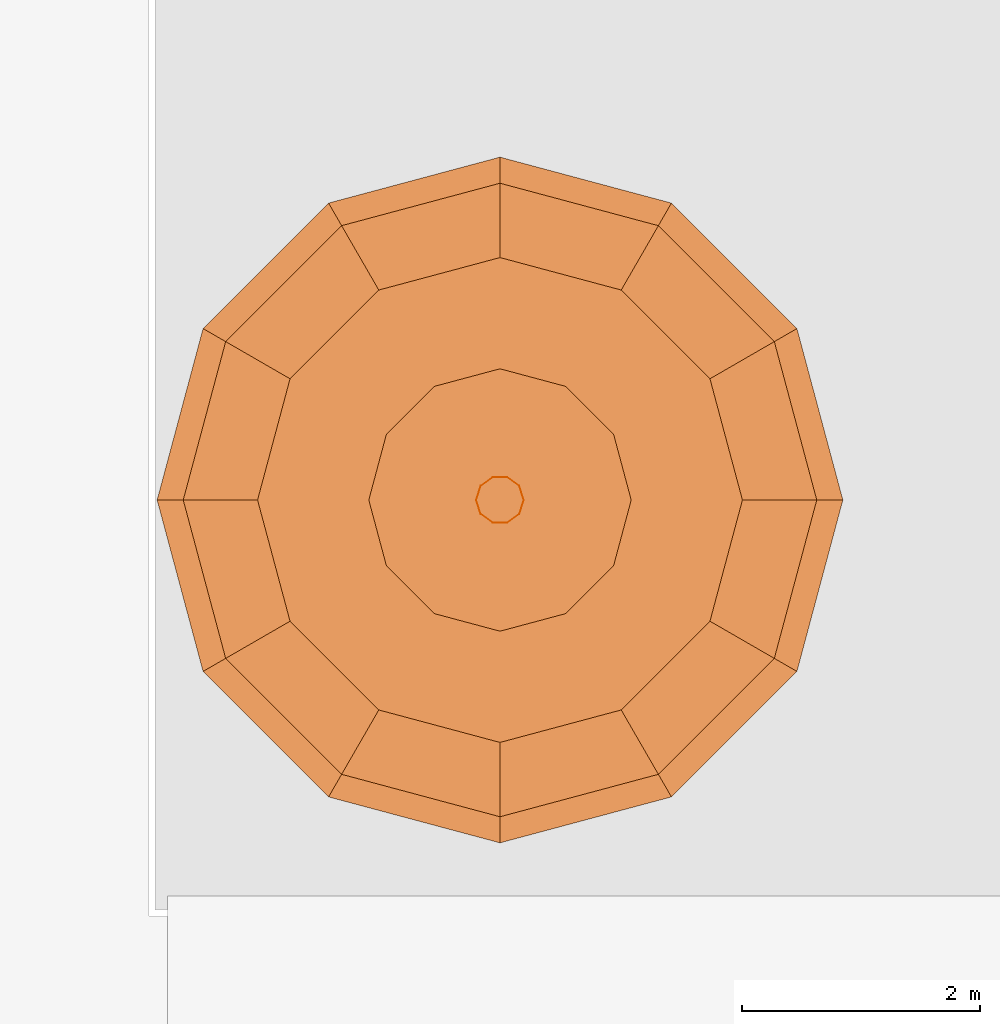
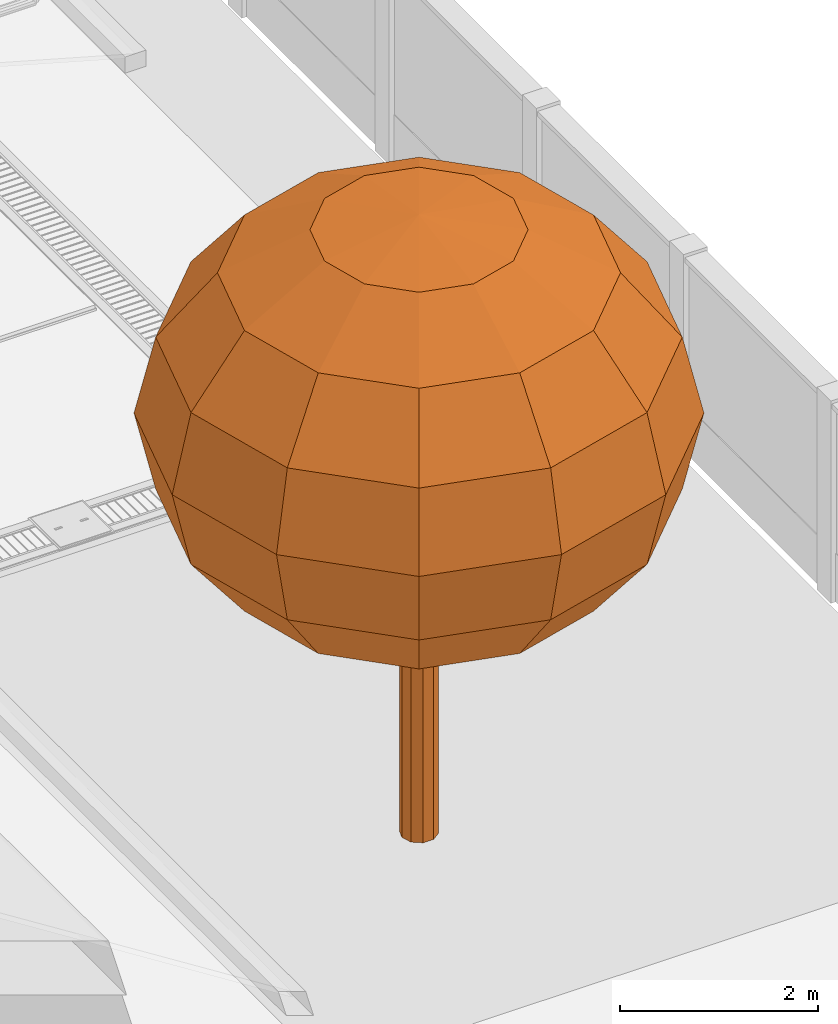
# One storey, part 163 of 166: 2 proxies.
"""IFC2X3 building model written with IfcOpenShell, lengths in metres."""

from ifc_helpers import new_model, si_unit, origin, origin_with_axes, place, context, subcontext, project, spatial, faceted_brep, element, save


model = new_model("IFC2X3")

# Units and contexts
model_context = context("Model", 3, precision=1e-05, world=origin_with_axes())
body_context = subcontext(model_context, "Body", "Model", "MODEL_VIEW")
ifc_project = project(units=[si_unit("LENGTHUNIT", "METRE"), si_unit("AREAUNIT", "SQUARE_METRE"), si_unit("VOLUMEUNIT", "CUBIC_METRE"), si_unit("PLANEANGLEUNIT", "RADIAN")], contexts=[model_context])

# Site, building, storey
site_placement = place(None, origin_with_axes())
site = spatial("IfcSite", under=ifc_project, at=site_placement, Name="Predio Los Mangos - Morales, San Martín", CompositionType="ELEMENT")
building_placement = place(site_placement, origin())
building = spatial("IfcBuilding", under=site, at=building_placement, Name="Hogar de Refugio Temporal", CompositionType="ELEMENT")
storey_placement = place(building_placement, origin())
storey = spatial("IfcBuildingStorey", under=building, at=storey_placement, Name="NIVEL 1 (NPT +0.00)", CompositionType="ELEMENT", Elevation=0.0)

# Proxies
proxy_1_placement = place(storey_placement, origin())
element("IfcBuildingElementProxy", 1, at=proxy_1_placement, inside=storey, Name="arbol_tronco", ObjectType="Árbol", context=body_context, shape_type="Brep", body=[
    faceted_brep([(66.2006, 82.0, 0.0), (66.1622, 82.1179, 0.0), (66.1622, 82.1179, 3.0083), (66.062, 82.1907, 0.0), (66.062, 82.1907, 3.0083), (65.938, 82.1907, 0.0), (65.938, 82.1907, 3.0083), (65.8378, 82.1179, 0.0), (65.8378, 82.1179, 3.0083), (65.7994, 82.0, 0.0), (65.7994, 82.0, 3.0083), (65.8378, 81.8821, 0.0), (65.8378, 81.8821, 3.0083), (65.938, 81.8093, 0.0), (65.938, 81.8093, 3.0083), (66.062, 81.8093, 0.0), (66.062, 81.8093, 3.0083), (66.1622, 81.8821, 0.0), (66.1622, 81.8821, 3.0083), (66.2006, 82.0, 3.0083)], [[[0, 1, 2]], [[1, 3, 4]], [[3, 5, 6]], [[5, 7, 8]], [[7, 9, 10]], [[9, 11, 12]], [[11, 13, 14]], [[13, 15, 16]], [[15, 17, 18]], [[17, 0, 19]], [[0, 2, 19]], [[1, 4, 2]], [[3, 6, 4]], [[5, 8, 6]], [[7, 10, 8]], [[9, 12, 10]], [[11, 14, 12]], [[13, 16, 14]], [[15, 18, 16]], [[17, 19, 18]]]),
])
proxy_2_placement = place(storey_placement, origin())
element("IfcBuildingElementProxy", 2, at=proxy_2_placement, inside=storey, Name="arbol_copa", ObjectType="Árbol", context=body_context, shape_type="Brep", body=[
    faceted_brep([(66.0, 82.0, 7.621), (66.0, 82.0, 7.621), (66.9554, 82.5516, 7.4344), (67.1033, 82.0, 7.4344), (66.0, 82.0, 7.621), (66.5516, 82.9554, 7.4344), (66.0, 82.0, 7.621), (66.0, 83.1033, 7.4344), (66.0, 82.0, 7.621), (65.4484, 82.9554, 7.4344), (66.0, 82.0, 7.621), (65.0446, 82.5516, 7.4344), (66.0, 82.0, 7.621), (64.8967, 82.0, 7.4344), (66.0, 82.0, 7.621), (65.0446, 81.4484, 7.4344), (66.0, 82.0, 7.621), (65.4484, 81.0446, 7.4344), (66.0, 82.0, 7.621), (66.0, 80.8967, 7.4344), (66.0, 82.0, 7.621), (66.5516, 81.0446, 7.4344), (66.0, 82.0, 7.621), (66.9554, 81.4484, 7.4344), (67.7654, 83.0193, 6.9032), (68.0385, 82.0, 6.9032), (67.0193, 83.7654, 6.9032), (66.0, 84.0385, 6.9032), (64.9807, 83.7654, 6.9032), (64.2346, 83.0193, 6.9032), (63.9615, 82.0, 6.9032), (64.2346, 80.9807, 6.9032), (64.9807, 80.2346, 6.9032), (66.0, 79.9615, 6.9032), (67.0193, 80.2346, 6.9032), (67.7654, 80.9807, 6.9032), (68.3066, 83.3317, 6.1082), (68.6635, 82.0, 6.1082), (67.3317, 84.3066, 6.1082), (66.0, 84.6635, 6.1082), (64.6683, 84.3066, 6.1082), (63.6934, 83.3317, 6.1082), (63.3365, 82.0, 6.1082), (63.6934, 80.6683, 6.1082), (64.6683, 79.6934, 6.1082), (66.0, 79.3365, 6.1082), (67.3317, 79.6934, 6.1082), (68.3066, 80.6683, 6.1082), (68.4967, 83.4415, 5.1705), (68.8829, 82.0, 5.1705), (67.4415, 84.4967, 5.1705), (66.0, 84.8829, 5.1705), (64.5585, 84.4967, 5.1705), (63.5033, 83.4415, 5.1705), (63.1171, 82.0, 5.1705), (63.5033, 80.5585, 5.1705), (64.5585, 79.5033, 5.1705), (66.0, 79.1171, 5.1705), (67.4415, 79.5033, 5.1705), (68.4967, 80.5585, 5.1705), (68.3066, 83.3317, 4.2327), (68.6635, 82.0, 4.2327), (67.3317, 84.3066, 4.2327), (66.0, 84.6635, 4.2327), (64.6683, 84.3066, 4.2327), (63.6934, 83.3317, 4.2327), (63.3365, 82.0, 4.2327), (63.6934, 80.6683, 4.2327), (64.6683, 79.6934, 4.2327), (66.0, 79.3365, 4.2327), (67.3317, 79.6934, 4.2327), (68.3066, 80.6683, 4.2327), (67.7654, 83.0193, 3.4377), (68.0385, 82.0, 3.4377), (67.0193, 83.7654, 3.4377), (66.0, 84.0385, 3.4377), (64.9807, 83.7654, 3.4377), (64.2346, 83.0193, 3.4377), (63.9615, 82.0, 3.4377), (64.2346, 80.9807, 3.4377), (64.9807, 80.2346, 3.4377), (66.0, 79.9615, 3.4377), (67.0193, 80.2346, 3.4377), (67.7654, 80.9807, 3.4377), (66.9554, 82.5516, 2.9065), (67.1033, 82.0, 2.9065), (66.5516, 82.9554, 2.9065), (66.0, 83.1033, 2.9065), (65.4484, 82.9554, 2.9065), (65.0446, 82.5516, 2.9065), (64.8967, 82.0, 2.9065), (65.0446, 81.4484, 2.9065), (65.4484, 81.0446, 2.9065), (66.0, 80.8967, 2.9065), (66.5516, 81.0446, 2.9065), (66.9554, 81.4484, 2.9065), (66.0, 82.0, 2.72), (66.0, 82.0, 2.72), (66.0, 82.0, 2.72), (66.0, 82.0, 2.72), (66.0, 82.0, 2.72), (66.0, 82.0, 2.72), (66.0, 82.0, 2.72), (66.0, 82.0, 2.72), (66.0, 82.0, 2.72), (66.0, 82.0, 2.72), (66.0, 82.0, 2.72), (66.0, 82.0, 2.72)], [[[0, 1, 2]], [[0, 2, 3]], [[1, 4, 5]], [[1, 5, 2]], [[4, 6, 7]], [[4, 7, 5]], [[6, 8, 9]], [[6, 9, 7]], [[8, 10, 11]], [[8, 11, 9]], [[10, 12, 13]], [[10, 13, 11]], [[12, 14, 15]], [[12, 15, 13]], [[14, 16, 17]], [[14, 17, 15]], [[16, 18, 19]], [[16, 19, 17]], [[18, 20, 21]], [[18, 21, 19]], [[20, 22, 23]], [[20, 23, 21]], [[22, 0, 3]], [[22, 3, 23]], [[3, 2, 24]], [[3, 24, 25]], [[2, 5, 26]], [[2, 26, 24]], [[5, 7, 27]], [[5, 27, 26]], [[7, 9, 28]], [[7, 28, 27]], [[9, 11, 29]], [[9, 29, 28]], [[11, 13, 30]], [[11, 30, 29]], [[13, 15, 31]], [[13, 31, 30]], [[15, 17, 32]], [[15, 32, 31]], [[17, 19, 33]], [[17, 33, 32]], [[19, 21, 34]], [[19, 34, 33]], [[21, 23, 35]], [[21, 35, 34]], [[23, 3, 25]], [[23, 25, 35]], [[25, 24, 36]], [[25, 36, 37]], [[24, 26, 38]], [[24, 38, 36]], [[26, 27, 39]], [[26, 39, 38]], [[27, 28, 40]], [[27, 40, 39]], [[28, 29, 41]], [[28, 41, 40]], [[29, 30, 42]], [[29, 42, 41]], [[30, 31, 43]], [[30, 43, 42]], [[31, 32, 44]], [[31, 44, 43]], [[32, 33, 45]], [[32, 45, 44]], [[33, 34, 46]], [[33, 46, 45]], [[34, 35, 47]], [[34, 47, 46]], [[35, 25, 37]], [[35, 37, 47]], [[37, 36, 48]], [[37, 48, 49]], [[36, 38, 50]], [[36, 50, 48]], [[38, 39, 51]], [[38, 51, 50]], [[39, 40, 52]], [[39, 52, 51]], [[40, 41, 53]], [[40, 53, 52]], [[41, 42, 54]], [[41, 54, 53]], [[42, 43, 55]], [[42, 55, 54]], [[43, 44, 56]], [[43, 56, 55]], [[44, 45, 57]], [[44, 57, 56]], [[45, 46, 58]], [[45, 58, 57]], [[46, 47, 59]], [[46, 59, 58]], [[47, 37, 49]], [[47, 49, 59]], [[49, 48, 60]], [[49, 60, 61]], [[48, 50, 62]], [[48, 62, 60]], [[50, 51, 63]], [[50, 63, 62]], [[51, 52, 64]], [[51, 64, 63]], [[52, 53, 65]], [[52, 65, 64]], [[53, 54, 66]], [[53, 66, 65]], [[54, 55, 67]], [[54, 67, 66]], [[55, 56, 68]], [[55, 68, 67]], [[56, 57, 69]], [[56, 69, 68]], [[57, 58, 70]], [[57, 70, 69]], [[58, 59, 71]], [[58, 71, 70]], [[59, 49, 61]], [[59, 61, 71]], [[61, 60, 72]], [[61, 72, 73]], [[60, 62, 74]], [[60, 74, 72]], [[62, 63, 75]], [[62, 75, 74]], [[63, 64, 76]], [[63, 76, 75]], [[64, 65, 77]], [[64, 77, 76]], [[65, 66, 78]], [[65, 78, 77]], [[66, 67, 79]], [[66, 79, 78]], [[67, 68, 80]], [[67, 80, 79]], [[68, 69, 81]], [[68, 81, 80]], [[69, 70, 82]], [[69, 82, 81]], [[70, 71, 83]], [[70, 83, 82]], [[71, 61, 73]], [[71, 73, 83]], [[73, 72, 84]], [[73, 84, 85]], [[72, 74, 86]], [[72, 86, 84]], [[74, 75, 87]], [[74, 87, 86]], [[75, 76, 88]], [[75, 88, 87]], [[76, 77, 89]], [[76, 89, 88]], [[77, 78, 90]], [[77, 90, 89]], [[78, 79, 91]], [[78, 91, 90]], [[79, 80, 92]], [[79, 92, 91]], [[80, 81, 93]], [[80, 93, 92]], [[81, 82, 94]], [[81, 94, 93]], [[82, 83, 95]], [[82, 95, 94]], [[83, 73, 85]], [[83, 85, 95]], [[85, 84, 96]], [[85, 96, 97]], [[84, 86, 98]], [[84, 98, 96]], [[86, 87, 99]], [[86, 99, 98]], [[87, 88, 100]], [[87, 100, 99]], [[88, 89, 101]], [[88, 101, 100]], [[89, 90, 102]], [[89, 102, 101]], [[90, 91, 103]], [[90, 103, 102]], [[91, 92, 104]], [[91, 104, 103]], [[92, 93, 105]], [[92, 105, 104]], [[93, 94, 106]], [[93, 106, 105]], [[94, 95, 107]], [[94, 107, 106]], [[95, 85, 97]], [[95, 97, 107]]]),
])

save(model, "model.ifc")
